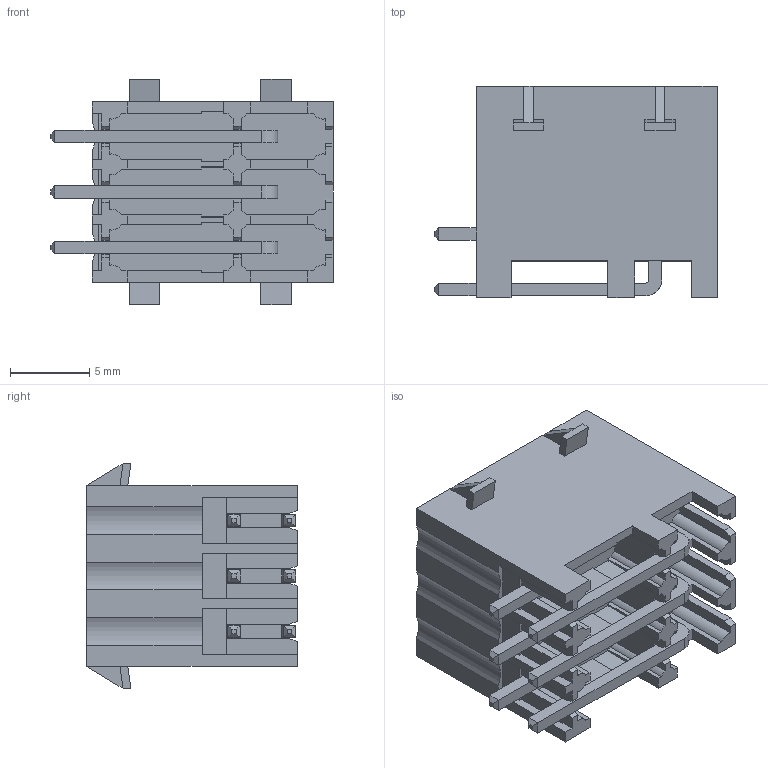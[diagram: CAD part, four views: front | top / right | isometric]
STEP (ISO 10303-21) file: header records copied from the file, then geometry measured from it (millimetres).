
FILE_DESCRIPTION((''),'2;1');
FILE_NAME('333','2019-04-12T',('zhenbing.lai'),(''),'CREO PARAMETRIC BY PTC INC, 2016260','CREO PARAMETRIC BY PTC INC, 2016260','');
FILE_SCHEMA(('CONFIG_CONTROL_DESIGN'));
Length unit declared in the file: millimetre
Products named in the file (1): 333
Bounding box: 17.8 x 13.3 x 14.2 mm (x, y, z)
Volume: 1142.4 mm3; surface area: 2602.9 mm2
Topology: 1 solids, 1 shells, 613 faces, 1706 edges, 1116 vertices
Faces by surface type: plane 559, cylinder 48, cone 6
Entity records: 19352 total; most frequent: CARTESIAN_POINT 3495, ORIENTED_EDGE 3412, DIRECTION 3070, EDGE_CURVE 1706, VECTOR 1544, LINE 1544, VERTEX_POINT 1116, AXIS2_PLACEMENT_3D 763
